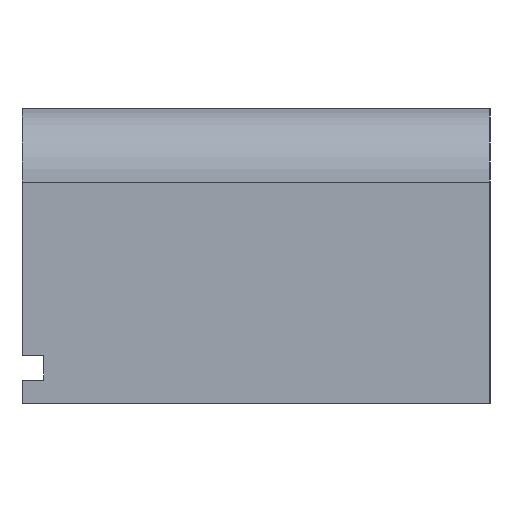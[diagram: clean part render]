
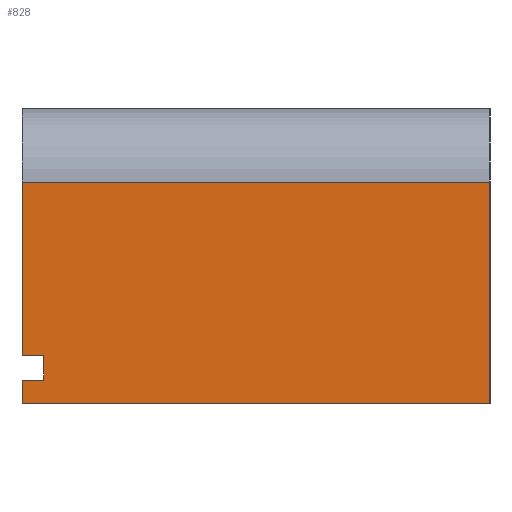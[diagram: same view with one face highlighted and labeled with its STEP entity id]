
A CAD part, left-side view. The second image highlights one B-rep face of the part: STEP entity #828.
In plain terms, the highlighted planar face has unit normal (-1, 0, 0).
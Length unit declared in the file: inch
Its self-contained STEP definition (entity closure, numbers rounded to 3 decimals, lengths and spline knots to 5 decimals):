
#2 = LINE ( 'NONE', #1140, #476 ) ;
#43 = LINE ( 'NONE', #885, #1132 ) ;
#67 = PLANE ( 'NONE',  #793 ) ;
#69 = DIRECTION ( 'NONE',  ( 0., 0., -1. ) ) ;
#88 = EDGE_LOOP ( 'NONE', ( #935, #471, #231, #808, #173, #1159, #441, #1046 ) ) ;
#126 = VECTOR ( 'NONE', #516, 39.37008 ) ;
#143 = EDGE_CURVE ( 'NONE', #504, #490, #1089, .T. ) ;
#157 = CARTESIAN_POINT ( 'NONE',  ( -1.25236, 1.1875, -0.46344 ) ) ;
#170 = EDGE_CURVE ( 'NONE', #200, #504, #238, .T. ) ;
#173 = ORIENTED_EDGE ( 'NONE', *, *, #170, .T. ) ;
#185 = CARTESIAN_POINT ( 'NONE',  ( -1.25236, 1.1875, 0.09906 ) ) ;
#189 = DIRECTION ( 'NONE',  ( 0., 0., 1. ) ) ;
#200 = VERTEX_POINT ( 'NONE', #415 ) ;
#205 = CARTESIAN_POINT ( 'NONE',  ( -1.25236, 1.1875, -0.46344 ) ) ;
#206 = VERTEX_POINT ( 'NONE', #696 ) ;
#209 = VERTEX_POINT ( 'NONE', #787 ) ;
#227 = VECTOR ( 'NONE', #189, 39.37008 ) ;
#231 = ORIENTED_EDGE ( 'NONE', *, *, #451, .F. ) ;
#238 = LINE ( 'NONE', #342, #126 ) ;
#263 = DIRECTION ( 'NONE',  ( 0., 1., 0. ) ) ;
#279 = EDGE_CURVE ( 'NONE', #206, #200, #2, .T. ) ;
#295 = LINE ( 'NONE', #157, #698 ) ;
#316 = EDGE_CURVE ( 'NONE', #457, #209, #43, .T. ) ;
#322 = VERTEX_POINT ( 'NONE', #349 ) ;
#327 = LINE ( 'NONE', #1065, #840 ) ;
#342 = CARTESIAN_POINT ( 'NONE',  ( -1.25236, 0., -0.46344 ) ) ;
#349 = CARTESIAN_POINT ( 'NONE',  ( -1.25236, 1.1325, -0.34094 ) ) ;
#350 = EDGE_CURVE ( 'NONE', #457, #322, #465, .T. ) ;
#381 = DIRECTION ( 'NONE',  ( 0., 0., 1. ) ) ;
#397 = VERTEX_POINT ( 'NONE', #731 ) ;
#415 = CARTESIAN_POINT ( 'NONE',  ( -1.25236, 0., -0.46344 ) ) ;
#441 = ORIENTED_EDGE ( 'NONE', *, *, #661, .F. ) ;
#451 = EDGE_CURVE ( 'NONE', #206, #209, #669, .T. ) ;
#457 = VERTEX_POINT ( 'NONE', #563 ) ;
#465 = LINE ( 'NONE', #817, #227 ) ;
#471 = ORIENTED_EDGE ( 'NONE', *, *, #316, .T. ) ;
#476 = VECTOR ( 'NONE', #609, 39.37008 ) ;
#490 = VERTEX_POINT ( 'NONE', #1097 ) ;
#504 = VERTEX_POINT ( 'NONE', #920 ) ;
#516 = DIRECTION ( 'NONE',  ( 0., 0., 1. ) ) ;
#543 = FACE_OUTER_BOUND ( 'NONE', #88, .T. ) ;
#563 = CARTESIAN_POINT ( 'NONE',  ( -1.25236, 1.1325, -0.40344 ) ) ;
#609 = DIRECTION ( 'NONE',  ( 0., -1., 0. ) ) ;
#619 = DIRECTION ( 'NONE',  ( 1., 0., 0. ) ) ;
#626 = DIRECTION ( 'NONE',  ( 0., 1., 0. ) ) ;
#661 = EDGE_CURVE ( 'NONE', #397, #490, #295, .T. ) ;
#669 = LINE ( 'NONE', #205, #867 ) ;
#693 = DIRECTION ( 'NONE',  ( 0., 0., 1. ) ) ;
#696 = CARTESIAN_POINT ( 'NONE',  ( -1.25236, 1.1875, -0.46344 ) ) ;
#698 = VECTOR ( 'NONE', #693, 39.37008 ) ;
#731 = CARTESIAN_POINT ( 'NONE',  ( -1.25236, 1.1875, -0.34094 ) ) ;
#787 = CARTESIAN_POINT ( 'NONE',  ( -1.25236, 1.1875, -0.40344 ) ) ;
#793 = AXIS2_PLACEMENT_3D ( 'NONE', #805, #619, #69 ) ;
#805 = CARTESIAN_POINT ( 'NONE',  ( -1.25236, 1.1875, -0.46344 ) ) ;
#808 = ORIENTED_EDGE ( 'NONE', *, *, #279, .T. ) ;
#817 = CARTESIAN_POINT ( 'NONE',  ( -1.25236, 1.1325, -0.40344 ) ) ;
#828 = ADVANCED_FACE ( 'NONE', ( #543 ), #67, .F. ) ;
#840 = VECTOR ( 'NONE', #626, 39.37008 ) ;
#867 = VECTOR ( 'NONE', #381, 39.37008 ) ;
#878 = EDGE_CURVE ( 'NONE', #322, #397, #327, .T. ) ;
#885 = CARTESIAN_POINT ( 'NONE',  ( -1.25236, 1.1325, -0.40344 ) ) ;
#920 = CARTESIAN_POINT ( 'NONE',  ( -1.25236, 0., 0.09906 ) ) ;
#935 = ORIENTED_EDGE ( 'NONE', *, *, #350, .F. ) ;
#1046 = ORIENTED_EDGE ( 'NONE', *, *, #878, .F. ) ;
#1057 = DIRECTION ( 'NONE',  ( 0., 1., 0. ) ) ;
#1065 = CARTESIAN_POINT ( 'NONE',  ( -1.25236, 1.1325, -0.34094 ) ) ;
#1089 = LINE ( 'NONE', #185, #1146 ) ;
#1097 = CARTESIAN_POINT ( 'NONE',  ( -1.25236, 1.1875, 0.09906 ) ) ;
#1132 = VECTOR ( 'NONE', #263, 39.37008 ) ;
#1140 = CARTESIAN_POINT ( 'NONE',  ( -1.25236, 1.1875, -0.46344 ) ) ;
#1146 = VECTOR ( 'NONE', #1057, 39.37008 ) ;
#1159 = ORIENTED_EDGE ( 'NONE', *, *, #143, .T. ) ;
